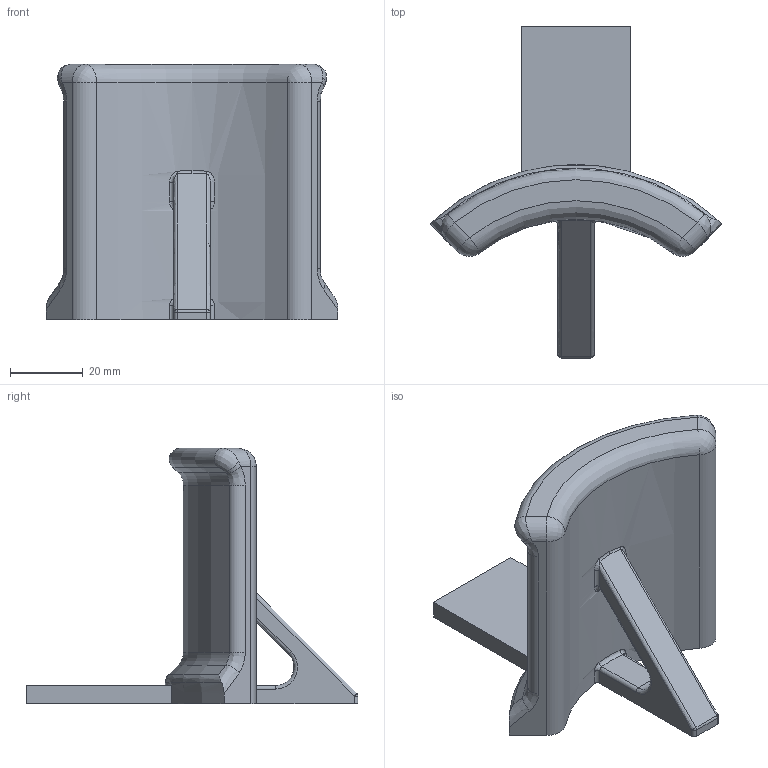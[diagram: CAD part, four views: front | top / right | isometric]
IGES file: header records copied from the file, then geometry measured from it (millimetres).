
Start section:  PTC IGES file: sennheiser.igs
Global section: file name: sennheiser.igs; native system: Creo Parametric by Parametric Technology Corporation; preprocessor: 2013050; author: user; organization: Unknown; date: 20131109.233555; units: millimetre
Bounding box: 80 x 91 x 70 mm (x, y, z)
Volume: 66057.9 mm3; surface area: 18408.8 mm2
Topology: 1 solids, 1 shells, 71 faces, 170 edges, 100 vertices
Faces by surface type: revolution 37, bspline 34
